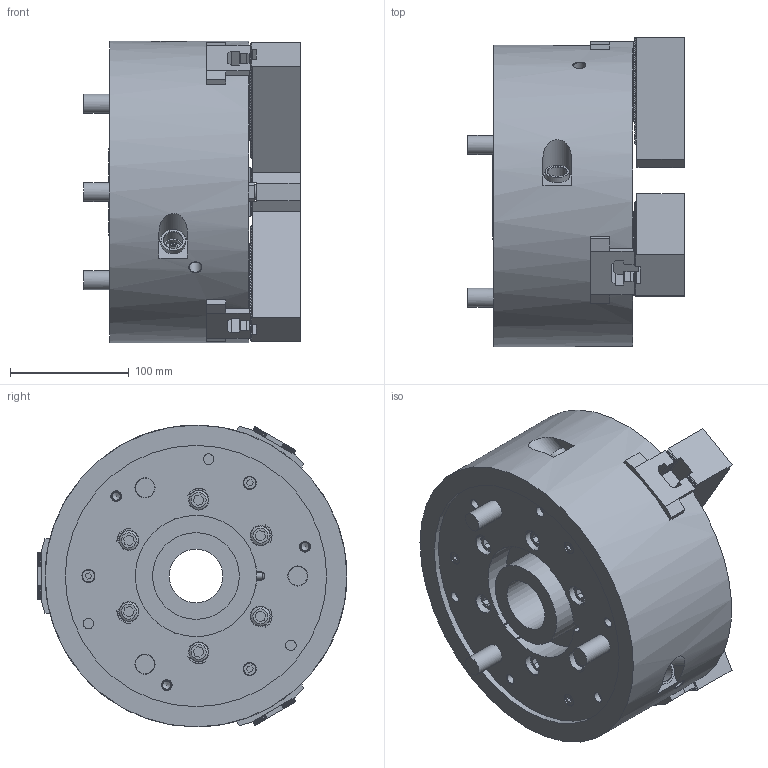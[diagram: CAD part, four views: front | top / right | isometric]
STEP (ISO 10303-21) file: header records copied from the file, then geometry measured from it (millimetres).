
FILE_DESCRIPTION (( 'STEP AP214' ), '1' );
FILE_NAME ('BL-210_61P275982-0_UC.STEP', '2020-03-24T06:54:25', ( '' ), ( '' ), 'SwSTEP 2.0', 'SolidWorks 2017', '' );
FILE_SCHEMA (( 'AUTOMOTIVE_DESIGN' ));
Length unit declared in the file: millimetre
Products named in the file (18): 61P4172621 T僫僢僩b_g; Part1^61P228033_BL210_ASSY_蹬怮椔; B傾僫僣僉 M12亊302_~30_棉太倌TI佱UA; Part1^61P228033_BL210_ASSY; P316335 ソフトジョー_W_‡_[_ﾃﾞﾌｫﾙﾄ_ATI≪UA; 61P4172621 T僫僢僩b_g_棉太倌佱UA; B傾僫僣僉 M12亊302_~30; P316335 ソフトジョー_W_‡_[; BL-210_61P275982-0_UC
Assembly tree (13 placements, depth 2):
  61P4172621 T僫僢僩b_g
  Part1^61P228033_BL210_ASSY
  B傾僫僣僉 M12亊302_~30
  P316335 ソフトジョー_W_‡_[
  B傾僫僣僉 M12亊302_~30
Bounding box: 182.2 x 260.69 x 254 mm (x, y, z)
Volume: 5852056.1 mm3; surface area: 411830.6 mm2
Topology: 13 solids, 25 shells, 3269 faces, 9184 edges, 6085 vertices
Faces by surface type: plane 2944, cylinder 189, bspline 76, cone 47, sphere 7, torus 6
Full cylindrical faces by diameter (mm): 1.9 x3, 6 x1, 6.8 x3, 8 x3, 8.8 x5, 9 x3, 10 x8, 11 x3, 12 x12, 13 x6, 14 x3, 16 x12, 17 x9, 18 x6, 19 x6, 20.5 x3, 21 x3, 24 x3, 25 x3, 45 x1, 53 x1, 56 x1, 65.5 x1, 73 x1, 220 x1, 254 x1
Entity records: 77716 total; most frequent: CARTESIAN_POINT 17294, ORIENTED_EDGE 12924, DIRECTION 11409, EDGE_CURVE 6462, LINE 5619, VECTOR 5619, VERTEX_POINT 4336, AXIS2_PLACEMENT_3D 2895
